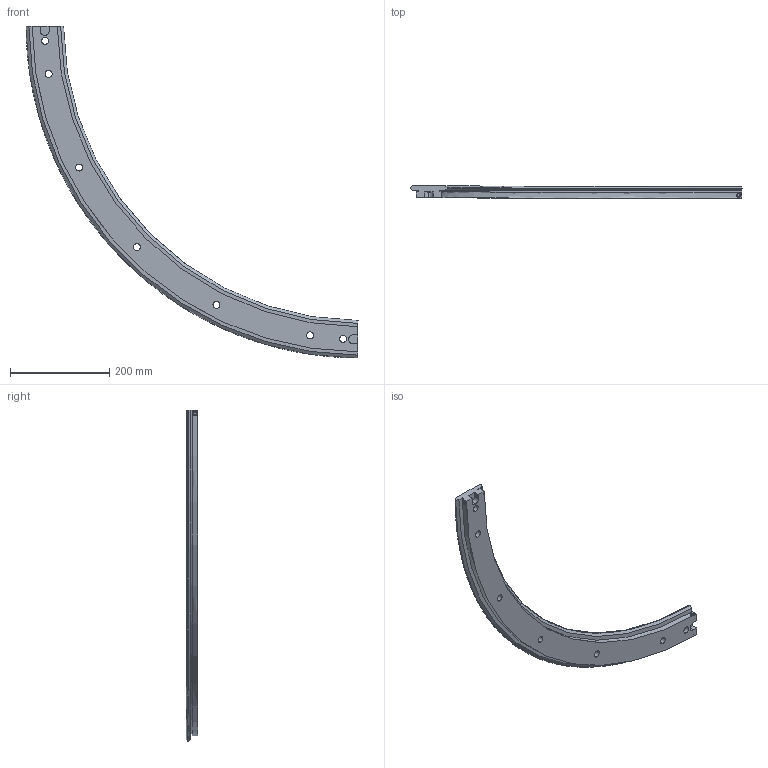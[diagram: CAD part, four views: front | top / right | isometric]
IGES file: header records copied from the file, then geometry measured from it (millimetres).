
Start section: 3D InterOp IGES (v. 2019 1.0.2), Spatial Corp. Copyright (c) 1999-2017.
Global section: file name: TR76 1267 R90.igs; native system: Spatial Corp.; preprocessor: 3D InterOp GENERIC/IGES 3.0; author: Noname; organization: Noname; date: 20220628.092406; units: millimetre
Bounding box: 668.8 x 24 x 668.8 mm (x, y, z)
Surface area: 211571.9 mm2 (no closed solid volume)
Topology: 0 solids, 0 shells, 103 faces, 516 edges, 516 vertices
Faces by surface type: extrusion 53, revolution 50
